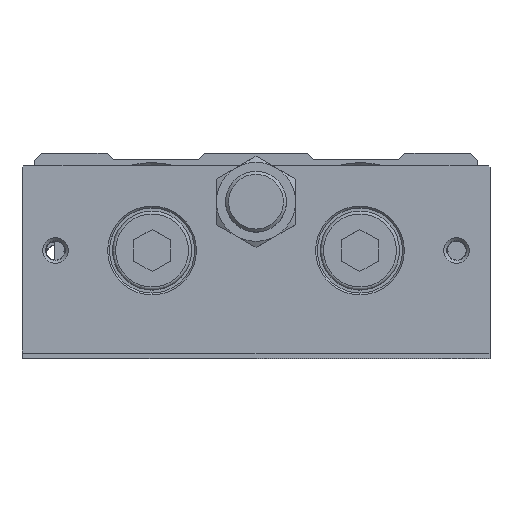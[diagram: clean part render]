
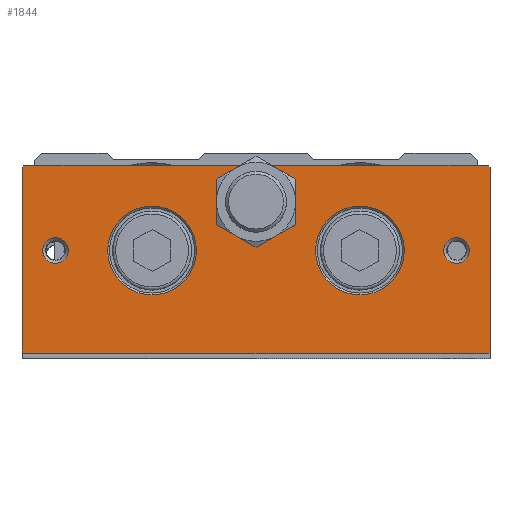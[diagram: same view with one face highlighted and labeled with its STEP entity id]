
A CAD part, top view. The second image highlights one B-rep face of the part: STEP entity #1844.
In plain terms, the highlighted planar face has unit normal (0, 0, 1).
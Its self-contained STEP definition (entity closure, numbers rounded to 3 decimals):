
#1642=CARTESIAN_POINT('',(-38.2,-17.5,254.0));
#1643=VERTEX_POINT('',#1642);
#1650=CARTESIAN_POINT('',(-38.5,-17.2,254.0));
#1651=VERTEX_POINT('',#1650);
#1652=CARTESIAN_POINT('',(-38.2,-17.5,254.0));
#1653=DIRECTION('',(-0.707,0.707,0.0));
#1654=VECTOR('',#1653,0.424);
#1655=LINE('',#1652,#1654);
#1656=EDGE_CURVE('',#1643,#1651,#1655,.T.);
#1667=CARTESIAN_POINT('',(0.0,-17.5,254.0));
#1668=DIRECTION('',(0.0,0.0,1.0));
#1669=DIRECTION('',(1.0,0.0,0.0));
#1670=AXIS2_PLACEMENT_3D('',#1667,#1668,#1669);
#1671=PLANE('',#1670);
#1672=ORIENTED_EDGE('',*,*,#1656,.F.);
#1673=CARTESIAN_POINT('',(38.2,-17.5,254.0));
#1674=VERTEX_POINT('',#1673);
#1675=CARTESIAN_POINT('',(-38.2,-17.5,254.0));
#1676=DIRECTION('',(1.0,0.0,0.0));
#1677=VECTOR('',#1676,76.4);
#1678=LINE('',#1675,#1677);
#1679=EDGE_CURVE('',#1643,#1674,#1678,.T.);
#1680=ORIENTED_EDGE('',*,*,#1679,.T.);
#1681=CARTESIAN_POINT('',(38.5,-17.2,254.0));
#1682=VERTEX_POINT('',#1681);
#1683=CARTESIAN_POINT('',(38.5,-17.2,254.0));
#1684=DIRECTION('',(-0.707,-0.707,0.0));
#1685=VECTOR('',#1684,0.424);
#1686=LINE('',#1683,#1685);
#1687=EDGE_CURVE('',#1682,#1674,#1686,.T.);
#1688=ORIENTED_EDGE('',*,*,#1687,.F.);
#1689=CARTESIAN_POINT('',(38.5,13.2,254.0));
#1690=VERTEX_POINT('',#1689);
#1691=CARTESIAN_POINT('',(38.5,-17.2,254.0));
#1692=DIRECTION('',(0.0,1.0,0.0));
#1693=VECTOR('',#1692,30.4);
#1694=LINE('',#1691,#1693);
#1695=EDGE_CURVE('',#1682,#1690,#1694,.T.);
#1696=ORIENTED_EDGE('',*,*,#1695,.T.);
#1697=CARTESIAN_POINT('',(38.2,13.5,254.0));
#1698=VERTEX_POINT('',#1697);
#1699=CARTESIAN_POINT('',(38.2,13.5,254.0));
#1700=DIRECTION('',(0.707,-0.707,0.0));
#1701=VECTOR('',#1700,0.424);
#1702=LINE('',#1699,#1701);
#1703=EDGE_CURVE('',#1698,#1690,#1702,.T.);
#1704=ORIENTED_EDGE('',*,*,#1703,.F.);
#1705=CARTESIAN_POINT('',(2.5,13.5,254.0));
#1706=VERTEX_POINT('',#1705);
#1707=CARTESIAN_POINT('',(38.2,13.5,254.0));
#1708=DIRECTION('',(-1.0,0.0,0.0));
#1709=VECTOR('',#1708,35.7);
#1710=LINE('',#1707,#1709);
#1711=EDGE_CURVE('',#1698,#1706,#1710,.T.);
#1712=ORIENTED_EDGE('',*,*,#1711,.T.);
#1713=CARTESIAN_POINT('',(3.25,13.129,254.0));
#1714=VERTEX_POINT('',#1713);
#1715=CARTESIAN_POINT('',(0.0,7.5,254.0));
#1716=DIRECTION('',(0.0,0.0,1.0));
#1717=DIRECTION('',(0.0,1.0,0.0));
#1718=AXIS2_PLACEMENT_3D('',#1715,#1716,#1717);
#1719=CIRCLE('',#1718,6.5);
#1720=EDGE_CURVE('',#1714,#1706,#1719,.T.);
#1721=ORIENTED_EDGE('',*,*,#1720,.F.);
#1722=CARTESIAN_POINT('',(6.5,7.5,254.0));
#1723=VERTEX_POINT('',#1722);
#1724=CARTESIAN_POINT('',(0.0,7.5,254.0));
#1725=DIRECTION('',(0.0,0.0,1.0));
#1726=DIRECTION('',(0.0,1.0,0.0));
#1727=AXIS2_PLACEMENT_3D('',#1724,#1725,#1726);
#1728=CIRCLE('',#1727,6.5);
#1729=EDGE_CURVE('',#1723,#1714,#1728,.T.);
#1730=ORIENTED_EDGE('',*,*,#1729,.F.);
#1731=CARTESIAN_POINT('',(3.25,1.871,254.0));
#1732=VERTEX_POINT('',#1731);
#1733=CARTESIAN_POINT('',(0.0,7.5,254.0));
#1734=DIRECTION('',(0.0,0.0,1.0));
#1735=DIRECTION('',(0.0,1.0,0.0));
#1736=AXIS2_PLACEMENT_3D('',#1733,#1734,#1735);
#1737=CIRCLE('',#1736,6.5);
#1738=EDGE_CURVE('',#1732,#1723,#1737,.T.);
#1739=ORIENTED_EDGE('',*,*,#1738,.F.);
#1740=CARTESIAN_POINT('',(-3.25,1.871,254.0));
#1741=VERTEX_POINT('',#1740);
#1742=CARTESIAN_POINT('',(0.0,7.5,254.0));
#1743=DIRECTION('',(0.0,0.0,1.0));
#1744=DIRECTION('',(0.0,1.0,0.0));
#1745=AXIS2_PLACEMENT_3D('',#1742,#1743,#1744);
#1746=CIRCLE('',#1745,6.5);
#1747=EDGE_CURVE('',#1741,#1732,#1746,.T.);
#1748=ORIENTED_EDGE('',*,*,#1747,.F.);
#1749=CARTESIAN_POINT('',(-6.5,7.5,254.0));
#1750=VERTEX_POINT('',#1749);
#1751=CARTESIAN_POINT('',(0.0,7.5,254.0));
#1752=DIRECTION('',(0.0,0.0,1.0));
#1753=DIRECTION('',(0.0,1.0,0.0));
#1754=AXIS2_PLACEMENT_3D('',#1751,#1752,#1753);
#1755=CIRCLE('',#1754,6.5);
#1756=EDGE_CURVE('',#1750,#1741,#1755,.T.);
#1757=ORIENTED_EDGE('',*,*,#1756,.F.);
#1758=CARTESIAN_POINT('',(-3.25,13.129,254.0));
#1759=VERTEX_POINT('',#1758);
#1760=CARTESIAN_POINT('',(0.0,7.5,254.0));
#1761=DIRECTION('',(0.0,0.0,1.0));
#1762=DIRECTION('',(0.0,1.0,0.0));
#1763=AXIS2_PLACEMENT_3D('',#1760,#1761,#1762);
#1764=CIRCLE('',#1763,6.5);
#1765=EDGE_CURVE('',#1759,#1750,#1764,.T.);
#1766=ORIENTED_EDGE('',*,*,#1765,.F.);
#1767=CARTESIAN_POINT('',(-2.5,13.5,254.0));
#1768=VERTEX_POINT('',#1767);
#1769=CARTESIAN_POINT('',(0.0,7.5,254.0));
#1770=DIRECTION('',(0.0,0.0,1.0));
#1771=DIRECTION('',(0.0,1.0,0.0));
#1772=AXIS2_PLACEMENT_3D('',#1769,#1770,#1771);
#1773=CIRCLE('',#1772,6.5);
#1774=EDGE_CURVE('',#1768,#1759,#1773,.T.);
#1775=ORIENTED_EDGE('',*,*,#1774,.F.);
#1776=CARTESIAN_POINT('',(-38.2,13.5,254.0));
#1777=VERTEX_POINT('',#1776);
#1778=CARTESIAN_POINT('',(-2.5,13.5,254.0));
#1779=DIRECTION('',(-1.0,0.0,0.0));
#1780=VECTOR('',#1779,35.7);
#1781=LINE('',#1778,#1780);
#1782=EDGE_CURVE('',#1768,#1777,#1781,.T.);
#1783=ORIENTED_EDGE('',*,*,#1782,.T.);
#1784=CARTESIAN_POINT('',(-38.5,13.2,254.0));
#1785=VERTEX_POINT('',#1784);
#1786=CARTESIAN_POINT('',(-38.5,13.2,254.0));
#1787=DIRECTION('',(0.707,0.707,0.0));
#1788=VECTOR('',#1787,0.424);
#1789=LINE('',#1786,#1788);
#1790=EDGE_CURVE('',#1785,#1777,#1789,.T.);
#1791=ORIENTED_EDGE('',*,*,#1790,.F.);
#1792=CARTESIAN_POINT('',(-38.5,13.2,254.0));
#1793=DIRECTION('',(0.0,-1.0,0.0));
#1794=VECTOR('',#1793,30.4);
#1795=LINE('',#1792,#1794);
#1796=EDGE_CURVE('',#1785,#1651,#1795,.T.);
#1797=ORIENTED_EDGE('',*,*,#1796,.T.);
#1798=EDGE_LOOP('',(#1672,#1680,#1688,#1696,#1704,#1712,#1721,#1730,#1739,#1748,#1757,#1766,#1775,#1783,#1791,#1797));
#1799=FACE_OUTER_BOUND('',#1798,.T.);
#1800=CARTESIAN_POINT('',(-9.8,-0.5,254.0));
#1801=VERTEX_POINT('',#1800);
#1802=CARTESIAN_POINT('',(-17.1,-0.5,254.0));
#1803=DIRECTION('',(0.0,0.0,1.0));
#1804=DIRECTION('',(-1.0,0.0,0.0));
#1805=AXIS2_PLACEMENT_3D('',#1802,#1803,#1804);
#1806=CIRCLE('',#1805,7.3);
#1807=EDGE_CURVE('',#1801,#1801,#1806,.T.);
#1808=ORIENTED_EDGE('',*,*,#1807,.F.);
#1809=EDGE_LOOP('',(#1808));
#1810=FACE_BOUND('',#1809,.T.);
#1811=CARTESIAN_POINT('',(35.121,-0.5,254.0));
#1812=VERTEX_POINT('',#1811);
#1813=CARTESIAN_POINT('',(33.0,-0.5,254.0));
#1814=DIRECTION('',(0.0,0.0,1.0));
#1815=DIRECTION('',(-1.0,0.0,0.0));
#1816=AXIS2_PLACEMENT_3D('',#1813,#1814,#1815);
#1817=CIRCLE('',#1816,2.121);
#1818=EDGE_CURVE('',#1812,#1812,#1817,.T.);
#1819=ORIENTED_EDGE('',*,*,#1818,.F.);
#1820=EDGE_LOOP('',(#1819));
#1821=FACE_BOUND('',#1820,.T.);
#1822=CARTESIAN_POINT('',(-30.879,-0.5,254.0));
#1823=VERTEX_POINT('',#1822);
#1824=CARTESIAN_POINT('',(-33.0,-0.5,254.0));
#1825=DIRECTION('',(0.0,0.0,1.0));
#1826=DIRECTION('',(-1.0,0.0,0.0));
#1827=AXIS2_PLACEMENT_3D('',#1824,#1825,#1826);
#1828=CIRCLE('',#1827,2.121);
#1829=EDGE_CURVE('',#1823,#1823,#1828,.T.);
#1830=ORIENTED_EDGE('',*,*,#1829,.F.);
#1831=EDGE_LOOP('',(#1830));
#1832=FACE_BOUND('',#1831,.T.);
#1833=CARTESIAN_POINT('',(24.4,-0.5,254.0));
#1834=VERTEX_POINT('',#1833);
#1835=CARTESIAN_POINT('',(17.1,-0.5,254.0));
#1836=DIRECTION('',(0.0,0.0,1.0));
#1837=DIRECTION('',(-1.0,0.0,0.0));
#1838=AXIS2_PLACEMENT_3D('',#1835,#1836,#1837);
#1839=CIRCLE('',#1838,7.3);
#1840=EDGE_CURVE('',#1834,#1834,#1839,.T.);
#1841=ORIENTED_EDGE('',*,*,#1840,.F.);
#1842=EDGE_LOOP('',(#1841));
#1843=FACE_BOUND('',#1842,.T.);
#1844=ADVANCED_FACE('',(#1799,#1810,#1821,#1832,#1843),#1671,.T.);
